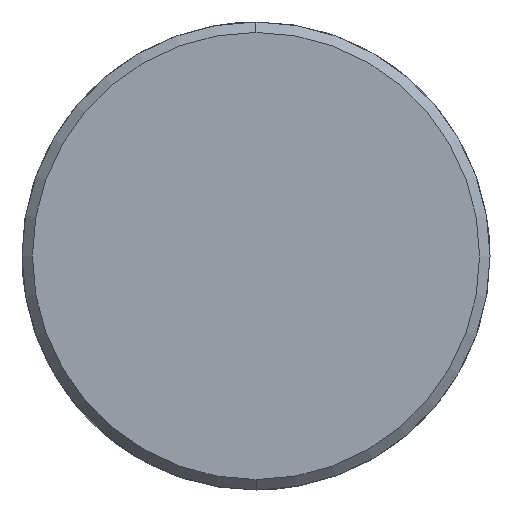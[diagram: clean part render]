
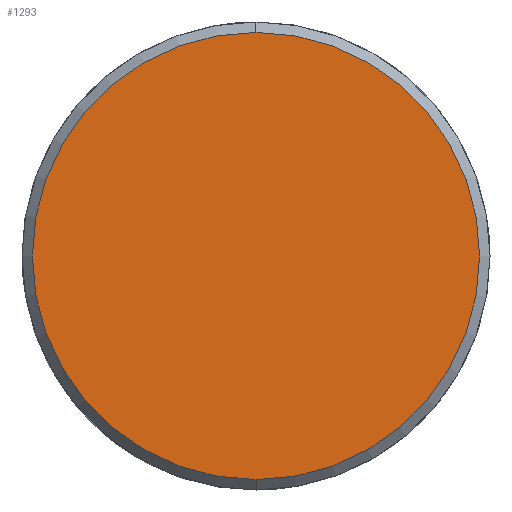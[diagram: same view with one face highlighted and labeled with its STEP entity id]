
A CAD part, left-side view. The second image highlights one B-rep face of the part: STEP entity #1293.
In plain terms, the highlighted planar face has unit normal (-1, 0, 0).
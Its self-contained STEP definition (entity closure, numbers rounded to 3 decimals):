
#1225=CARTESIAN_POINT('Vertex',(-7.,0.,-21.5)) ;
#1228=CARTESIAN_POINT('Axis2P3D Location',(-7.,0.,0.)) ;
#1232=CARTESIAN_POINT('Vertex',(-7.,21.5,0.)) ;
#1235=CARTESIAN_POINT('Axis2P3D Location',(-7.,0.,0.)) ;
#1239=CARTESIAN_POINT('Vertex',(-7.,0.,21.5)) ;
#1261=CARTESIAN_POINT('Axis2P3D Location',(-7.,0.,0.)) ;
#1265=CARTESIAN_POINT('Vertex',(-7.,-21.5,0.)) ;
#1268=CARTESIAN_POINT('Axis2P3D Location',(-7.,0.,0.)) ;
#1282=CARTESIAN_POINT('Axis2P3D Location',(-7.,0.,0.)) ;
#1229=DIRECTION('Axis2P3D Direction',(1.,0.,-0.)) ;
#1236=DIRECTION('Axis2P3D Direction',(1.,0.,-0.)) ;
#1262=DIRECTION('Axis2P3D Direction',(1.,0.,-0.)) ;
#1269=DIRECTION('Axis2P3D Direction',(1.,0.,-0.)) ;
#1283=DIRECTION('Axis2P3D Direction',(1.,0.,-0.)) ;
#1284=DIRECTION('Axis2P3D XDirection',(-0.,0.,-1.)) ;
#1230=AXIS2_PLACEMENT_3D('Circle Axis2P3D',#1228,#1229,$) ;
#1237=AXIS2_PLACEMENT_3D('Circle Axis2P3D',#1235,#1236,$) ;
#1263=AXIS2_PLACEMENT_3D('Circle Axis2P3D',#1261,#1262,$) ;
#1270=AXIS2_PLACEMENT_3D('Circle Axis2P3D',#1268,#1269,$) ;
#1285=AXIS2_PLACEMENT_3D('Plane Axis2P3D',#1282,#1283,#1284) ;
#1288=ORIENTED_EDGE('',*,*,#1234,.F.) ;
#1289=ORIENTED_EDGE('',*,*,#1272,.F.) ;
#1290=ORIENTED_EDGE('',*,*,#1267,.F.) ;
#1291=ORIENTED_EDGE('',*,*,#1241,.F.) ;
#1293=ADVANCED_FACE('351-32X116X260',(#1292),#1286,.F.) ;
#1231=CIRCLE('generated circle',#1230,21.5) ;
#1238=CIRCLE('generated circle',#1237,21.5) ;
#1264=CIRCLE('generated circle',#1263,21.5) ;
#1271=CIRCLE('generated circle',#1270,21.5) ;
#1234=EDGE_CURVE('',#1226,#1233,#1231,.T.) ;
#1241=EDGE_CURVE('',#1233,#1240,#1238,.T.) ;
#1267=EDGE_CURVE('',#1240,#1266,#1264,.T.) ;
#1272=EDGE_CURVE('',#1266,#1226,#1271,.T.) ;
#1287=EDGE_LOOP('',(#1288,#1289,#1290,#1291)) ;
#1292=FACE_OUTER_BOUND('',#1287,.T.) ;
#1286=PLANE('Plane',#1285) ;
#1226=VERTEX_POINT('',#1225) ;
#1233=VERTEX_POINT('',#1232) ;
#1240=VERTEX_POINT('',#1239) ;
#1266=VERTEX_POINT('',#1265) ;
